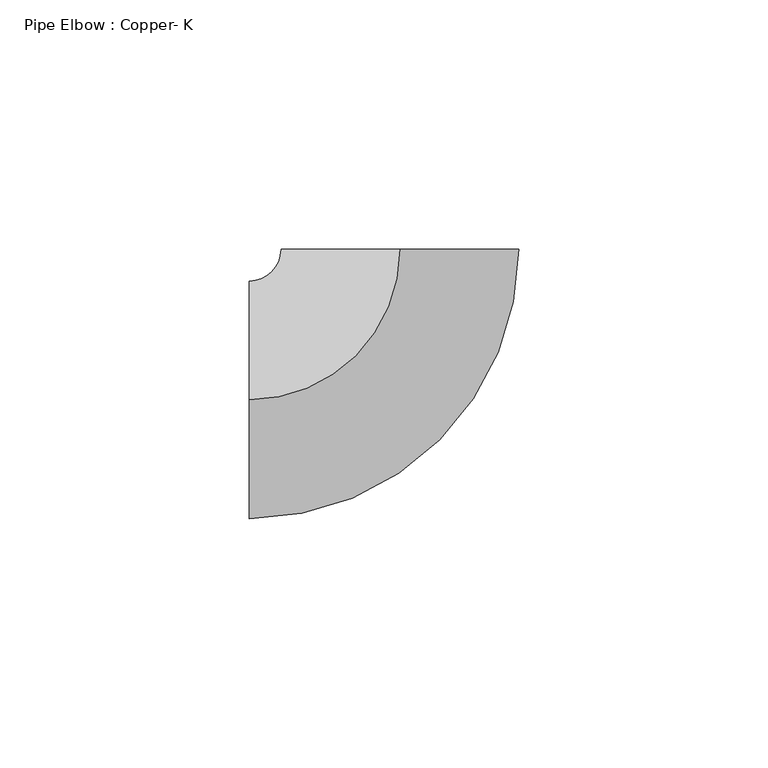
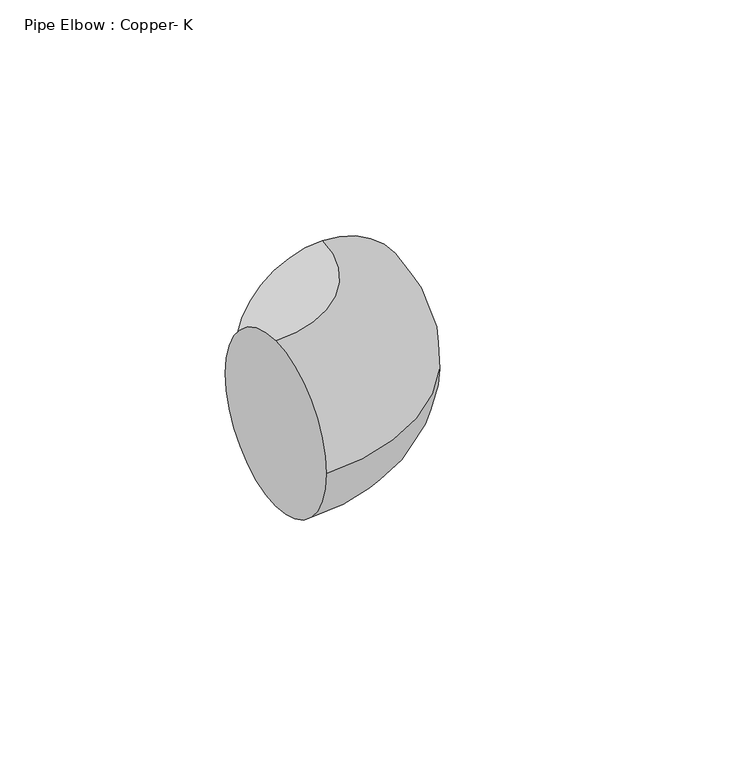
"""IFC4 building model written with IfcOpenShell, lengths in millimetres: pipe fitting geometry, Pipe Elbow : Copper- K."""

from ifc_helpers import new_model, si_unit, point, frame, origin, place, context, project, spatial, circle_curve, ellipse_curve, trimmed, source, transform, mapped, element, save
from ifc_brep_helpers import plane_surface, revolved_surface, advanced_brep


def pipe_elbow_copper_k_55092d7f(model_context):
    return source(origin(), model_context, "Body", "AdvancedBrep", [
        advanced_brep(
        [(-30.1630882, 0.0, 23.8125), (-30.1630882, 23.8125, 0.0), (-30.1630882, 0.0, -23.8125), (-30.1630882, -23.8125, 0.0), (-0.0005883, 30.1630882, 23.8125), (23.8119117, 30.1635526, 0.0), (-0.0005883, 30.1630882, -23.8125), (-23.8130882, 30.1626238, 0.0)],
        [
            (0, 1, circle_curve(frame((-30.1630882, 0.0, 0.0), z_axis=(-1.0, 0.0, 0.0), x_axis=(0.0, 1.0, 0.0)), 23.8125)),
            (1, 2, circle_curve(frame((-30.1630882, 0.0, 0.0), z_axis=(-1.0, 0.0, 0.0), x_axis=(0.0, 1.0, 0.0)), 23.8125)),
            (2, 3, circle_curve(frame((-30.1630882, 0.0, 0.0), z_axis=(-1.0, 0.0, 0.0), x_axis=(0.0, 1.0, 0.0)), 23.8125)),
            (3, 0, circle_curve(frame((-30.1630882, 0.0, 0.0), z_axis=(-1.0, 0.0, 0.0), x_axis=(0.0, 1.0, 0.0)), 23.8125)),
            (4, 5, circle_curve(frame((-0.0005883, 30.1630882, 0.0), z_axis=(-1.9502326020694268e-05, 0.9999999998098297, 0.0), x_axis=(-0.9999999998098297, -1.9502326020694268e-05, 0.0)), 23.8125)),
            (5, 6, circle_curve(frame((-0.0005883, 30.1630882, 0.0), z_axis=(-1.9502326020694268e-05, 0.9999999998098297, 0.0), x_axis=(-0.9999999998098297, -1.9502326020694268e-05, 0.0)), 23.8125)),
            (6, 7, circle_curve(frame((-0.0005883, 30.1630882, 0.0), z_axis=(-1.9502326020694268e-05, 0.9999999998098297, 0.0), x_axis=(-0.9999999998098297, -1.9502326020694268e-05, 0.0)), 23.8125)),
            (7, 4, circle_curve(frame((-0.0005883, 30.1630882, 0.0), z_axis=(-1.9502326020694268e-05, 0.9999999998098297, 0.0), x_axis=(-0.9999999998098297, -1.9502326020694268e-05, 0.0)), 23.8125)),
            (7, 1, circle_curve(frame((-30.1630882, 30.1625, 0.0), z_axis=(0.0, 0.0, -1.0), x_axis=(0.0, -1.0, 0.0)), 6.35)),
            (0, 4, circle_curve(frame((-30.1630882, 30.1625, 23.8125), z_axis=(0.0, 0.0, 1.0), x_axis=(0.0, -1.0, 0.0)), 30.1625)),
            (6, 2, circle_curve(frame((-30.1630882, 30.1625, -23.8125), z_axis=(0.0, 0.0, -1.0), x_axis=(0.0, -1.0, 0.0)), 30.1625)),
            (5, 3, circle_curve(frame((-30.1630882, 30.1625, 0.0), z_axis=(0.0, 0.0, -1.0), x_axis=(0.0, -1.0, 0.0)), 53.975)),
        ],
        [
            plane_surface(frame((-30.1630882, 0.0, 0.0), z_axis=(-1.0, 0.0, 0.0), x_axis=(0.0, 0.0, 1.0))),
            plane_surface(frame((-0.0005883, 30.1630882, 0.0), z_axis=(-1.9502326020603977e-05, 0.9999999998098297, 0.0), x_axis=(0.0, 0.0, 1.0))),
            revolved_surface(trimmed(ellipse_curve(frame((-30.1630882, 0.0, 0.0), z_axis=(-1.0, 0.0, 0.0), x_axis=(0.0, 1.0, 0.0)), 23.8125, 23.8125), [point((-30.1630882, 0.0, 23.8125))], [point((-30.1630882, 23.8125, 0.0))], True, "CARTESIAN"), (-30.1630882, 30.1625, 0.0), (0.0, 0.0, 1.0)),
            revolved_surface(trimmed(ellipse_curve(frame((-30.1630882, 0.0, 0.0), z_axis=(-1.0, 0.0, 0.0), x_axis=(0.0, 1.0, 0.0)), 23.8125, 23.8125), [point((-30.1630882, 23.8125, 0.0))], [point((-30.1630882, 0.0, -23.8125))], True, "CARTESIAN"), (-30.1630882, 30.1625, 0.0), (0.0, 0.0, 1.0)),
            revolved_surface(trimmed(ellipse_curve(frame((-30.1630882, 0.0, 0.0), z_axis=(-1.0, 0.0, 0.0), x_axis=(0.0, 1.0, 0.0)), 23.8125, 23.8125), [point((-30.1630882, 0.0, -23.8125))], [point((-30.1630882, -23.8125, 0.0))], True, "CARTESIAN"), (-30.1630882, 30.1625, 0.0), (0.0, 0.0, 1.0)),
            revolved_surface(trimmed(ellipse_curve(frame((-30.1630882, 0.0, 0.0), z_axis=(-1.0, 0.0, 0.0), x_axis=(0.0, 1.0, 0.0)), 23.8125, 23.8125), [point((-30.1630882, -23.8125, 0.0))], [point((-30.1630882, 0.0, 23.8125))], True, "CARTESIAN"), (-30.1630882, 30.1625, 0.0), (0.0, 0.0, 1.0)),
        ],
        [
            (0, [[1, 2, 3, 4]]),
            (1, [[5, 6, 7, 8]]),
            (2, [[9, -1, 10, -8]]),
            (3, [[11, -2, -9, -7]]),
            (4, [[12, -3, -11, -6]]),
            (5, [[-10, -4, -12, -5]]),
        ],
    ),
        advanced_brep(
        [(-30.1630882, 0.0, 23.8125), (-30.1630882, 23.8125, 0.0), (-30.1630882, 0.0, -23.8125), (-30.1630882, -23.8125, 0.0), (-0.0005883, 30.1630882, 23.8125), (23.8119117, 30.1635526, 0.0), (-0.0005883, 30.1630882, -23.8125), (-23.8130882, 30.1626238, 0.0)],
        [
            (0, 1, circle_curve(frame((-30.1630882, 0.0, 0.0), z_axis=(-1.0, 0.0, 0.0), x_axis=(0.0, 1.0, 0.0)), 23.8125)),
            (1, 2, circle_curve(frame((-30.1630882, 0.0, 0.0), z_axis=(-1.0, 0.0, 0.0), x_axis=(0.0, 1.0, 0.0)), 23.8125)),
            (2, 3, circle_curve(frame((-30.1630882, 0.0, 0.0), z_axis=(-1.0, 0.0, 0.0), x_axis=(0.0, 1.0, 0.0)), 23.8125)),
            (3, 0, circle_curve(frame((-30.1630882, 0.0, 0.0), z_axis=(-1.0, 0.0, 0.0), x_axis=(0.0, 1.0, 0.0)), 23.8125)),
            (4, 5, circle_curve(frame((-0.0005883, 30.1630882, 0.0), z_axis=(-1.9502326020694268e-05, 0.9999999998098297, 0.0), x_axis=(-0.9999999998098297, -1.9502326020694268e-05, 0.0)), 23.8125)),
            (5, 6, circle_curve(frame((-0.0005883, 30.1630882, 0.0), z_axis=(-1.9502326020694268e-05, 0.9999999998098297, 0.0), x_axis=(-0.9999999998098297, -1.9502326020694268e-05, 0.0)), 23.8125)),
            (6, 7, circle_curve(frame((-0.0005883, 30.1630882, 0.0), z_axis=(-1.9502326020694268e-05, 0.9999999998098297, 0.0), x_axis=(-0.9999999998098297, -1.9502326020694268e-05, 0.0)), 23.8125)),
            (7, 4, circle_curve(frame((-0.0005883, 30.1630882, 0.0), z_axis=(-1.9502326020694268e-05, 0.9999999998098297, 0.0), x_axis=(-0.9999999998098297, -1.9502326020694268e-05, 0.0)), 23.8125)),
            (7, 1, circle_curve(frame((-30.1630882, 30.1625, 0.0), z_axis=(0.0, 0.0, -1.0), x_axis=(0.0, -1.0, 0.0)), 6.35)),
            (0, 4, circle_curve(frame((-30.1630882, 30.1625, 23.8125), z_axis=(0.0, 0.0, 1.0), x_axis=(0.0, -1.0, 0.0)), 30.1625)),
            (6, 2, circle_curve(frame((-30.1630882, 30.1625, -23.8125), z_axis=(0.0, 0.0, -1.0), x_axis=(0.0, -1.0, 0.0)), 30.1625)),
            (5, 3, circle_curve(frame((-30.1630882, 30.1625, 0.0), z_axis=(0.0, 0.0, -1.0), x_axis=(0.0, -1.0, 0.0)), 53.975)),
        ],
        [
            plane_surface(frame((-30.1630882, 0.0, 0.0), z_axis=(-1.0, 0.0, 0.0), x_axis=(0.0, 0.0, 1.0))),
            plane_surface(frame((-0.0005883, 30.1630882, 0.0), z_axis=(-1.9502326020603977e-05, 0.9999999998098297, 0.0), x_axis=(0.0, 0.0, 1.0))),
            revolved_surface(trimmed(ellipse_curve(frame((-30.1630882, 0.0, 0.0), z_axis=(-1.0, 0.0, 0.0), x_axis=(0.0, 1.0, 0.0)), 23.8125, 23.8125), [point((-30.1630882, 0.0, 23.8125))], [point((-30.1630882, 23.8125, 0.0))], True, "CARTESIAN"), (-30.1630882, 30.1625, 0.0), (0.0, 0.0, 1.0)),
            revolved_surface(trimmed(ellipse_curve(frame((-30.1630882, 0.0, 0.0), z_axis=(-1.0, 0.0, 0.0), x_axis=(0.0, 1.0, 0.0)), 23.8125, 23.8125), [point((-30.1630882, 23.8125, 0.0))], [point((-30.1630882, 0.0, -23.8125))], True, "CARTESIAN"), (-30.1630882, 30.1625, 0.0), (0.0, 0.0, 1.0)),
            revolved_surface(trimmed(ellipse_curve(frame((-30.1630882, 0.0, 0.0), z_axis=(-1.0, 0.0, 0.0), x_axis=(0.0, 1.0, 0.0)), 23.8125, 23.8125), [point((-30.1630882, 0.0, -23.8125))], [point((-30.1630882, -23.8125, 0.0))], True, "CARTESIAN"), (-30.1630882, 30.1625, 0.0), (0.0, 0.0, 1.0)),
            revolved_surface(trimmed(ellipse_curve(frame((-30.1630882, 0.0, 0.0), z_axis=(-1.0, 0.0, 0.0), x_axis=(0.0, 1.0, 0.0)), 23.8125, 23.8125), [point((-30.1630882, -23.8125, 0.0))], [point((-30.1630882, 0.0, 23.8125))], True, "CARTESIAN"), (-30.1630882, 30.1625, 0.0), (0.0, 0.0, 1.0)),
        ],
        [
            (0, [[1, 2, 3, 4]]),
            (1, [[5, 6, 7, 8]]),
            (2, [[9, -1, 10, -8]]),
            (3, [[11, -2, -9, -7]]),
            (4, [[12, -3, -11, -6]]),
            (5, [[-10, -4, -12, -5]]),
        ],
    ),
    ])


if __name__ == "__main__":
    model = new_model("IFC4")
    model_context = context("Model", 3, world=origin())
    ifc_project = project(units=[si_unit("LENGTHUNIT", "METRE", prefix="MILLI")], contexts=[model_context])
    site = spatial("IfcSite", under=ifc_project)
    building = spatial("IfcBuilding", under=site)
    placement = place(None, origin())
    pipe_elbow_copper_k_shape = pipe_elbow_copper_k_55092d7f(model_context)
    element("IfcPipeFitting", 1, ObjectType="Pipe Elbow : Copper- K", at=placement, inside=building, context=model_context, shape_type="MappedRepresentation", body=[
        mapped(pipe_elbow_copper_k_shape, transform((0.0, 0.0, 0.0), x_axis=(1.0, 0.0, 0.0), y_axis=(0.0, 1.0, 0.0), z_axis=(0.0, 0.0, 1.0))),
    ])
    save(model, "model.ifc")
